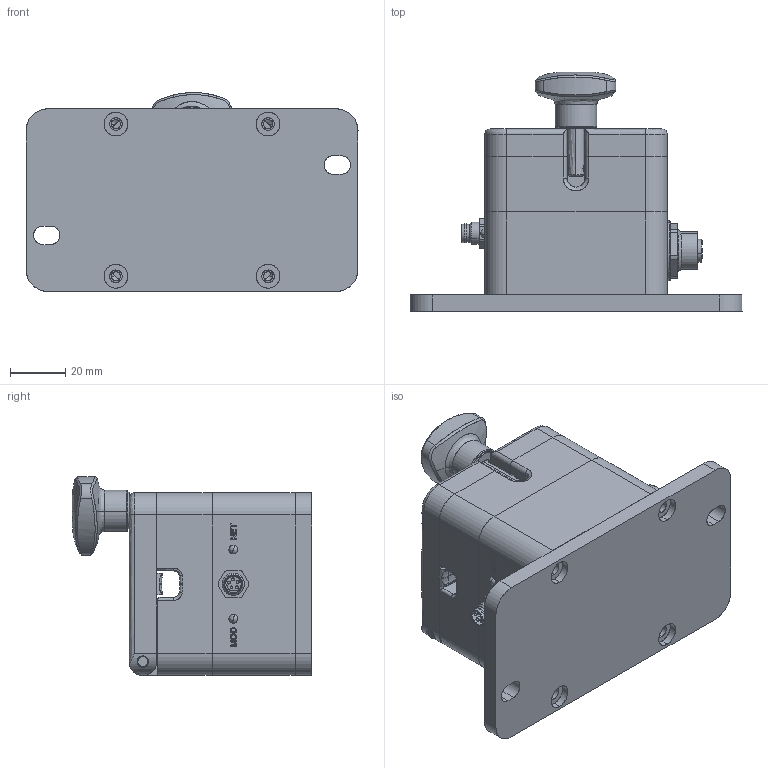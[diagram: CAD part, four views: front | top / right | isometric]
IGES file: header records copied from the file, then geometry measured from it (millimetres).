
Start section: SolidWorks IGES file using analytic representation for surfaces
Global section: file name: C:\Users\mhooglugt\Siemens\swcache\MFC117\CustomerFiles\BCU0375_BP.IGS; native system: SolidWorks 2023; preprocessor: SolidWorks 2023; author: MHooglugt; date: 251016.101054; units: inch
Bounding box: 120 x 86.5 x 71.89 mm (x, y, z)
Surface area: 79063.1 mm2 (no closed solid volume)
Topology: 0 solids, 0 shells, 1277 faces, 15576 edges, 15485 vertices
Faces by surface type: bspline 684, revolution 593
